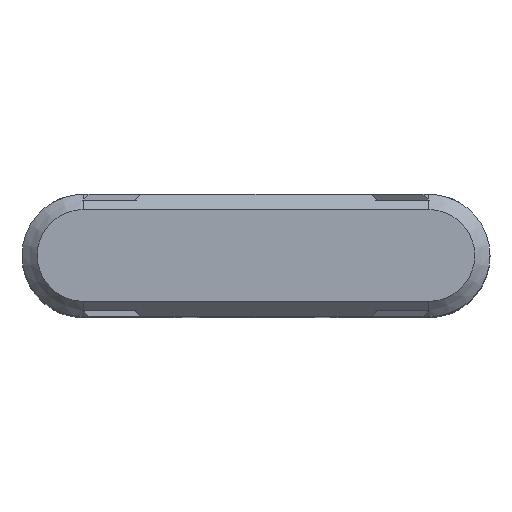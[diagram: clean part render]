
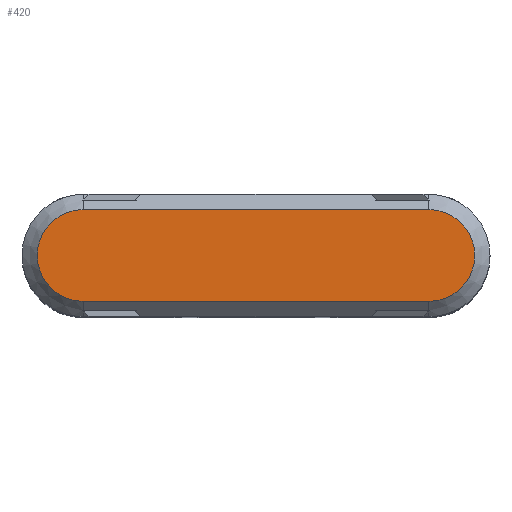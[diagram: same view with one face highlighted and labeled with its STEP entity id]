
A CAD part, top view. The second image highlights one B-rep face of the part: STEP entity #420.
In plain terms, the highlighted planar face has unit normal (0, 0, 1).
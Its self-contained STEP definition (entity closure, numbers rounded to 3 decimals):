
#10=CARTESIAN_POINT('',(12.869,4.044,-43.));
#20=DIRECTION('',(0.,0.,1.));
#30=DIRECTION('',(1.,0.,0.));
#40=AXIS2_PLACEMENT_3D('',#10,#20,#30);
#50=PLANE('',#40);
#60=CARTESIAN_POINT('',(7.219,4.044,-43.));
#70=DIRECTION('',(0.,0.,1.));
#80=DIRECTION('',(1.,0.,0.));
#90=AXIS2_PLACEMENT_3D('',#60,#70,#80);
#100=CIRCLE('',#90,1.5);
#110=CARTESIAN_POINT('',(7.219,5.544,-43.));
#120=VERTEX_POINT('',#110);
#130=CARTESIAN_POINT('',(7.219,2.544,-43.));
#140=VERTEX_POINT('',#130);
#150=EDGE_CURVE('',#120,#140,#100,.T.);
#160=ORIENTED_EDGE('',*,*,#150,.T.);
#170=CARTESIAN_POINT('',(12.869,5.544,-43.));
#180=DIRECTION('',(-1.,0.,0.));
#190=VECTOR('',#180,1.);
#200=LINE('',#170,#190);
#210=CARTESIAN_POINT('',(18.519,5.544,-43.));
#220=VERTEX_POINT('',#210);
#230=EDGE_CURVE('',#220,#120,#200,.T.);
#240=ORIENTED_EDGE('',*,*,#230,.T.);
#250=CARTESIAN_POINT('',(18.519,4.044,-43.));
#260=DIRECTION('',(0.,0.,1.));
#270=DIRECTION('',(1.,0.,0.));
#280=AXIS2_PLACEMENT_3D('',#250,#260,#270);
#290=CIRCLE('',#280,1.5);
#300=CARTESIAN_POINT('',(18.519,2.544,-43.));
#310=VERTEX_POINT('',#300);
#320=EDGE_CURVE('',#310,#220,#290,.T.);
#330=ORIENTED_EDGE('',*,*,#320,.T.);
#340=CARTESIAN_POINT('',(12.869,2.544,-43.));
#350=DIRECTION('',(1.,0.,0.));
#360=VECTOR('',#350,1.);
#370=LINE('',#340,#360);
#380=EDGE_CURVE('',#140,#310,#370,.T.);
#390=ORIENTED_EDGE('',*,*,#380,.T.);
#400=EDGE_LOOP('',(#390,#330,#240,#160));
#410=FACE_OUTER_BOUND('',#400,.T.);
#420=ADVANCED_FACE('',(#410),#50,.T.);
